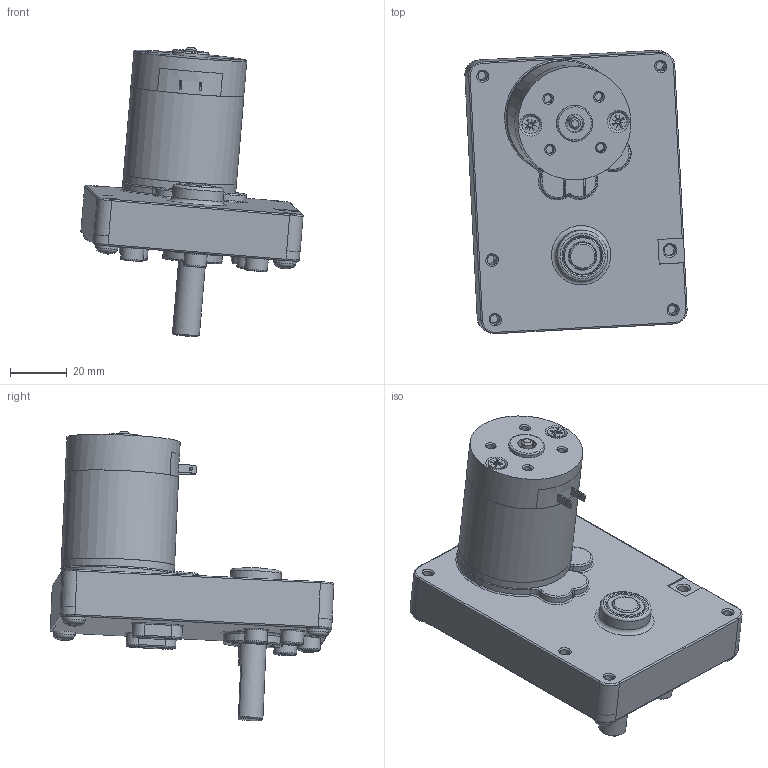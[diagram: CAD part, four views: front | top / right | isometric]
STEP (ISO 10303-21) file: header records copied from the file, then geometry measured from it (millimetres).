
FILE_DESCRIPTION(/* description */ (''),/* implementation_level */ '2;1');
FILE_NAME(/* name */ 'C:\Users\byjeong\Desktop\3D도면\SP42BT.stp',/* time_stamp */ '2015-03-31T15:15:01+09:00',/* author */ ('byjeong'),/* organization */ (''),/* preprocessor_version */ 'ST-DEVELOPER v15.6',/* originating_system */ 'Autodesk Inventor 2015',/* authorisation */ '');
FILE_SCHEMA (('AUTOMOTIVE_DESIGN { 1 0 10303 214 3 1 1 }'));
Length unit declared in the file: millimetre
Products named in the file (10): SQ BOX ASSY; RM4TYPE_BRUSH_BRAKET_TERMINAL; RM4TYPE_REAR_HOUSING; REAR_HOUSING__ASS'Y_TERMINAL; RM4TYPE_FRONT_HOUSING_; RM4TYPE_PIPE_HOUSING_pi40XL31.2; RM42TYPE_SHAFT; AS 1427 Z - 미터 M3.5 x 5; RM42ㅁBT; 조립품23
Bounding box: 78.3 x 99.88 x 101.99 mm (x, y, z)
Volume: 144915.9 mm3; surface area: 42772.9 mm2
Topology: 12 solids, 12 shells, 472 faces, 1097 edges, 688 vertices
Faces by surface type: plane 160, cone 119, cylinder 108, torus 78, sphere 4, bspline 3
Full cylindrical faces by diameter (mm): 1.2 x2, 2.7 x4, 2.8 x4, 3.132 x2, 3.3 x4, 3.4 x3, 3.5 x3, 3.571 x3, 3.7 x2, 3.9 x1, 3.969 x1, 4 x10, 4.4 x3, 5 x1, 6.1 x2, 6.5 x1, 6.65 x1, 8 x5, 9.5 x3, 12.7 x3, 13.5 x2, 14.3 x1, 18 x1, 21 x1, 36.5 x1, 40 x3
Entity records: 12187 total; most frequent: CARTESIAN_POINT 2888, DIRECTION 2002, ORIENTED_EDGE 1642, AXIS2_PLACEMENT_3D 899, EDGE_CURVE 821, EDGE_LOOP 651, VERTEX_POINT 594, CIRCLE 443
